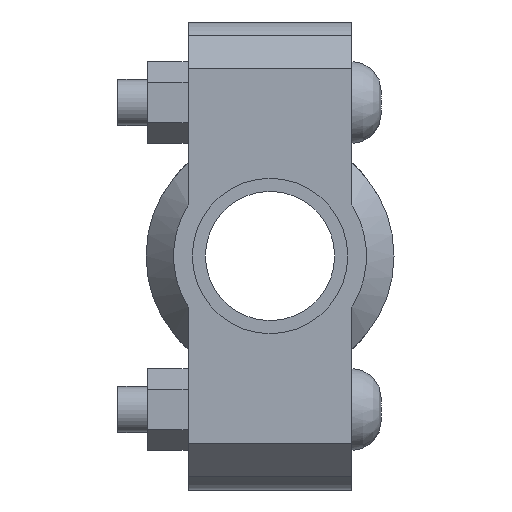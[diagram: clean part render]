
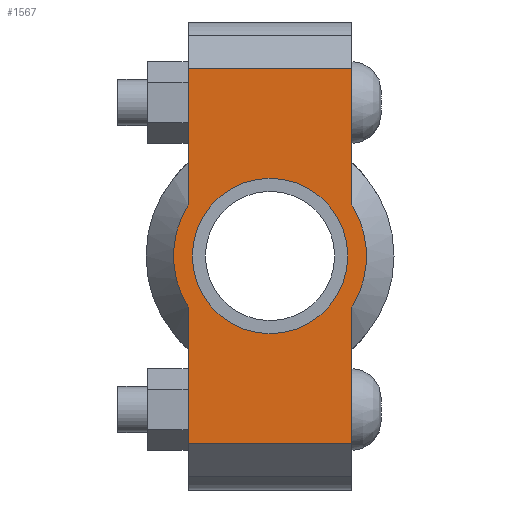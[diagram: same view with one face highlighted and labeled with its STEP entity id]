
A CAD part, left-side view. The second image highlights one B-rep face of the part: STEP entity #1567.
In plain terms, the highlighted planar face has unit normal (-1, 0, 0) as drawn and (0, 0, 1) by its records, which use the part's own axes.
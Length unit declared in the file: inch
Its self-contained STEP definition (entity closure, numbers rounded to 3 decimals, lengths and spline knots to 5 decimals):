
#178=LINE('',#2693,#273);
#193=LINE('',#2752,#288);
#201=LINE('',#2782,#296);
#203=LINE('',#2785,#298);
#204=LINE('',#2790,#299);
#205=LINE('',#2791,#300);
#273=VECTOR('',#2171,0.3937);
#288=VECTOR('',#2206,0.3937);
#296=VECTOR('',#2226,0.3937);
#298=VECTOR('',#2230,0.3937);
#299=VECTOR('',#2235,0.3937);
#300=VECTOR('',#2236,0.3937);
#360=FACE_BOUND('',#519,.T.);
#420=FACE_OUTER_BOUND('',#518,.T.);
#518=EDGE_LOOP('',(#1262,#1263,#1264,#1265,#1266,#1267,#1268,#1269));
#519=EDGE_LOOP('',(#1270));
#624=CIRCLE('',#1830,1.031);
#625=CIRCLE('',#1831,1.031);
#626=CIRCLE('',#1832,0.83);
#733=VERTEX_POINT('',#2690);
#734=VERTEX_POINT('',#2692);
#755=VERTEX_POINT('',#2747);
#756=VERTEX_POINT('',#2751);
#765=VERTEX_POINT('',#2777);
#766=VERTEX_POINT('',#2781);
#767=VERTEX_POINT('',#2787);
#768=VERTEX_POINT('',#2789);
#769=VERTEX_POINT('',#2793);
#903=EDGE_CURVE('',#734,#733,#178,.T.);
#928=EDGE_CURVE('',#756,#755,#193,.T.);
#941=EDGE_CURVE('',#766,#765,#201,.T.);
#943=EDGE_CURVE('',#766,#733,#203,.T.);
#944=EDGE_CURVE('',#765,#767,#624,.T.);
#945=EDGE_CURVE('',#767,#768,#204,.T.);
#946=EDGE_CURVE('',#756,#768,#205,.T.);
#947=EDGE_CURVE('',#755,#734,#625,.T.);
#948=EDGE_CURVE('',#769,#769,#626,.T.);
#1262=ORIENTED_EDGE('',*,*,#943,.F.);
#1263=ORIENTED_EDGE('',*,*,#941,.T.);
#1264=ORIENTED_EDGE('',*,*,#944,.T.);
#1265=ORIENTED_EDGE('',*,*,#945,.T.);
#1266=ORIENTED_EDGE('',*,*,#946,.F.);
#1267=ORIENTED_EDGE('',*,*,#928,.T.);
#1268=ORIENTED_EDGE('',*,*,#947,.T.);
#1269=ORIENTED_EDGE('',*,*,#903,.T.);
#1270=ORIENTED_EDGE('',*,*,#948,.T.);
#1419=PLANE('',#1829);
#1567=ADVANCED_FACE('',(#420,#360),#1419,.T.);
#1829=AXIS2_PLACEMENT_3D('',#2786,#2231,#2232);
#1830=AXIS2_PLACEMENT_3D('',#2788,#2233,#2234);
#1831=AXIS2_PLACEMENT_3D('',#2792,#2237,#2238);
#1832=AXIS2_PLACEMENT_3D('',#2794,#2239,#2240);
#2171=DIRECTION('',(1.,0.,0.));
#2206=DIRECTION('',(1.,0.,0.));
#2226=DIRECTION('',(-1.,0.,0.));
#2230=DIRECTION('',(0.,-1.,0.));
#2231=DIRECTION('center_axis',(0.,0.,1.));
#2232=DIRECTION('ref_axis',(-1.,0.,0.));
#2233=DIRECTION('center_axis',(0.,0.,1.));
#2234=DIRECTION('ref_axis',(1.,0.,0.));
#2235=DIRECTION('',(-1.,0.,0.));
#2236=DIRECTION('',(0.,1.,0.));
#2237=DIRECTION('center_axis',(0.,0.,1.));
#2238=DIRECTION('ref_axis',(1.,0.,0.));
#2239=DIRECTION('center_axis',(0.,0.,-1.));
#2240=DIRECTION('ref_axis',(1.,0.,0.));
#2690=CARTESIAN_POINT('',(2.,-0.875,0.94));
#2692=CARTESIAN_POINT('',(0.54529,-0.875,0.94));
#2693=CARTESIAN_POINT('',(-2.5,-0.875,0.94));
#2747=CARTESIAN_POINT('',(-0.54529,-0.875,0.94));
#2751=CARTESIAN_POINT('',(-2.,-0.875,0.94));
#2752=CARTESIAN_POINT('',(-2.5,-0.875,0.94));
#2777=CARTESIAN_POINT('',(0.54529,0.875,0.94));
#2781=CARTESIAN_POINT('',(2.,0.875,0.94));
#2782=CARTESIAN_POINT('',(2.5,0.875,0.94));
#2785=CARTESIAN_POINT('',(2.,-0.4375,0.94));
#2786=CARTESIAN_POINT('Origin',(0.,0.,
0.94));
#2787=CARTESIAN_POINT('',(-0.54529,0.875,0.94));
#2788=CARTESIAN_POINT('Origin',(0.,0.,0.94));
#2789=CARTESIAN_POINT('',(-2.,0.875,0.94));
#2790=CARTESIAN_POINT('',(2.5,0.875,0.94));
#2791=CARTESIAN_POINT('',(-2.,0.4375,0.94));
#2792=CARTESIAN_POINT('Origin',(0.,0.,0.94));
#2793=CARTESIAN_POINT('',(-0.83,0.,0.94));
#2794=CARTESIAN_POINT('Origin',(0.,0.,0.94));
